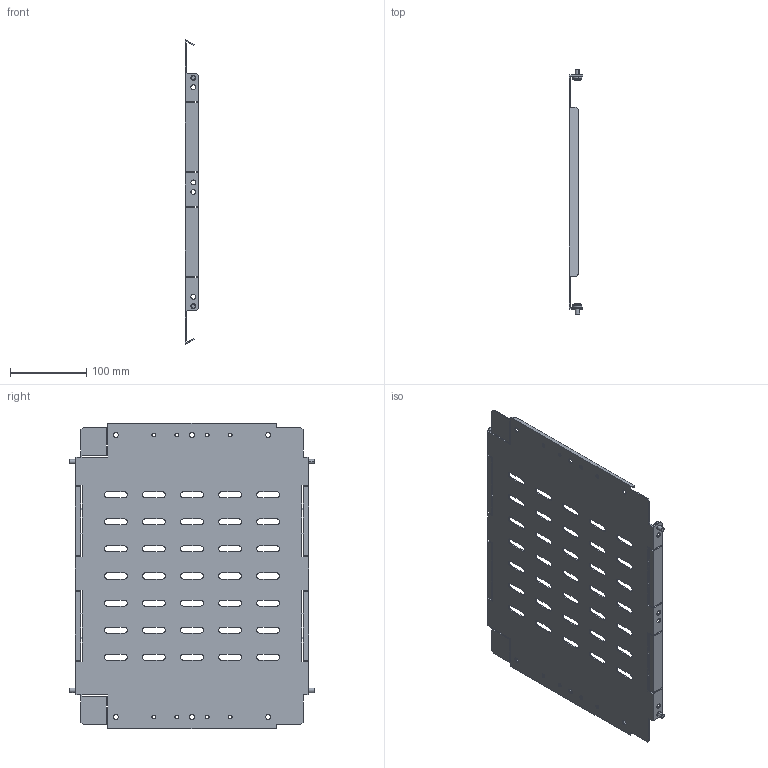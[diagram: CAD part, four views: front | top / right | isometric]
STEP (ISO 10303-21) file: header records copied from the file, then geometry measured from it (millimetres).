
FILE_DESCRIPTION (( 'STEP AP214' ), '1' );
FILE_NAME ('FO-00-SWV-040-040 Ïåðåãîðîäêà ñåêöèîíèðîâàíèÿ âåðòèêàëüíàÿ 400x400 ìì.STEP', '2025-09-18T13:19:32', ( '' ), ( '' ), 'SwSTEP 2.0', 'SolidWorks 2023', '' );
FILE_SCHEMA (( 'AUTOMOTIVE_DESIGN' ));
Length unit declared in the file: millimetre
Products named in the file (1): FO-00-SWV-040-040 Перегородка секционирования вертикальная 400x400 мм
Bounding box: 17.5 x 321.9 x 400.39 mm (x, y, z)
Volume: 190727.6 mm3; surface area: 261003.7 mm2
Topology: 1 solids, 1 shells, 498 faces, 1456 edges, 960 vertices
Faces by surface type: plane 268, cylinder 198, cone 16, torus 16
Entity records: 16895 total; most frequent: CARTESIAN_POINT 2915, ORIENTED_EDGE 2912, DIRECTION 2898, EDGE_CURVE 1456, LINE 1012, VECTOR 1012, VERTEX_POINT 960, AXIS2_PLACEMENT_3D 943
